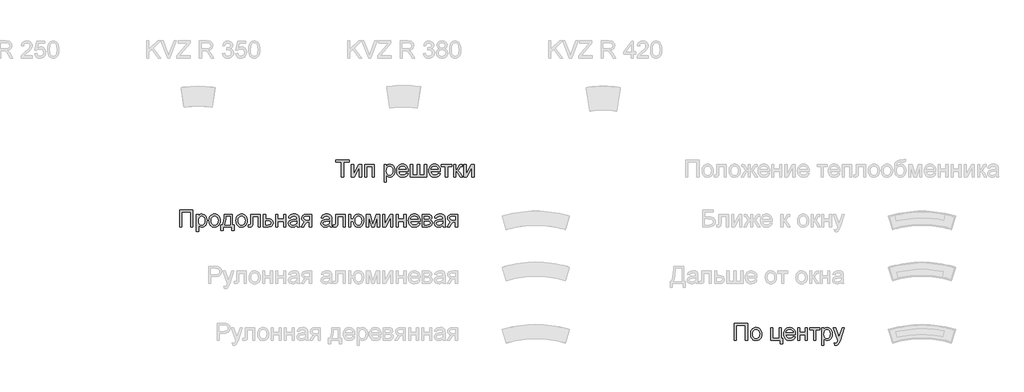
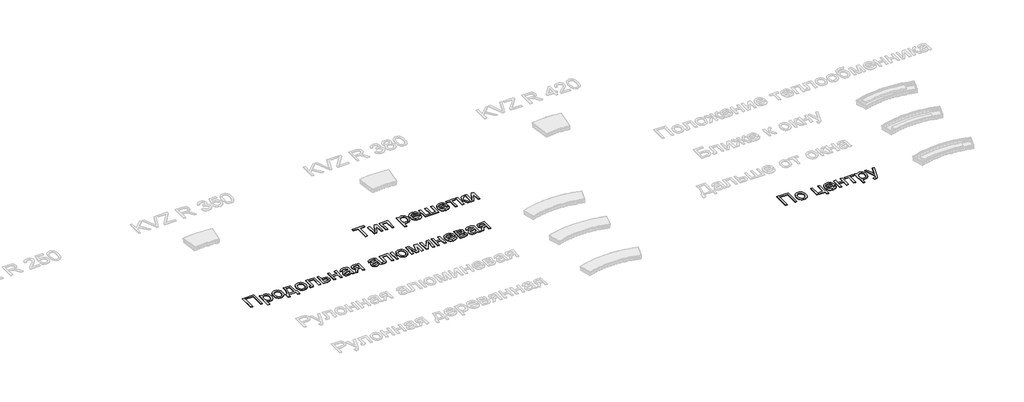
# One storey, part 6 of 9: 3 proxies.
"""IFC4 building model written with IfcOpenShell, lengths in millimetres."""

import ifcopenshell
import ifcopenshell.guid

model = None  # the IFC model being written
_history = None  # IfcOwnerHistory: only IFC2X3 demands one
_inside = {}  # id of a spatial element -> (the spatial element, [elements in it])
_under = {}  # id of a project, library or spatial element -> (it, [spatial elements below it])
_declared = {}  # id of a project -> (the project, [libraries it declares])
_typed = {}  # id of a type object -> (the type object, [elements of that type])
_made_of = {}  # id of a material, layer set ... -> (it, [elements and type objects made of it])


def new_model(schema):
    """Start an empty IFC model of exactly this schema.

    Asked for "IFC4X3", IfcOpenShell would pick the latest addendum, in which some entities
    have other attributes; the version numbers below select the first issue.
    IFC2X3 requires an IfcOwnerHistory on every rooted entity: one is made here for all.
    """
    global model, _history
    if schema == "IFC4X3":
        model = ifcopenshell.file(schema_version=(4, 3, 0, 0))
    else:
        model = ifcopenshell.file(schema=schema)
    _inside.clear()
    _under.clear()
    _declared.clear()
    _typed.clear()
    _made_of.clear()
    _history = None
    if model.schema == "IFC2X3":
        org = make("IfcOrganization", Name="unknown")
        user = make(
            "IfcPersonAndOrganization",
            ThePerson=make("IfcPerson", FamilyName="unknown"),
            TheOrganization=org,
        )
        app = make(
            "IfcApplication",
            ApplicationDeveloper=org,
            Version="unknown",
            ApplicationFullName="unknown",
            ApplicationIdentifier="unknown",
        )
        _history = make(
            "IfcOwnerHistory",
            OwningUser=user,
            OwningApplication=app,
            ChangeAction="ADDED",
            CreationDate=0,
        )
    return model


def make(cls, **values):
    """One entity of the class cls with the attributes given. An attribute that is None is left unset."""
    return model.create_entity(
        cls, **{name: value for name, value in values.items() if value is not None}
    )


def rooted(cls, **values):
    """An entity with a GlobalId (a new one), such as an element, a storey or a relation."""
    return make(cls, GlobalId=ifcopenshell.guid.new(), OwnerHistory=_history, **values)


def si_unit(unit_type, name, prefix=None):
    """IfcSIUnit, for example si_unit("LENGTHUNIT", "METRE", prefix="MILLI")."""
    return make("IfcSIUnit", UnitType=unit_type, Prefix=prefix, Name=name)


def assignment(units):
    """IfcUnitAssignment: the units of a project."""
    return None if units is None else make("IfcUnitAssignment", Units=units)


def point(xyz):
    """IfcCartesianPoint."""
    return None if xyz is None else make("IfcCartesianPoint", Coordinates=xyz)


def direction(xyz):
    """IfcDirection."""
    return None if xyz is None else make("IfcDirection", DirectionRatios=xyz)


def frame(location, z_axis=None, x_axis=None):
    """IfcAxis2Placement3D, a coordinate frame: its origin and axes. An axis left out is left unset."""
    return make(
        "IfcAxis2Placement3D",
        Location=point(location),
        Axis=direction(z_axis),
        RefDirection=direction(x_axis),
    )


def origin():
    """The frame at (0, 0, 0) with its axes left unset."""
    return frame((0.0, 0.0, 0.0))


def origin_with_axes():
    """The frame at (0, 0, 0) with the z axis (0, 0, 1) and the x axis (1, 0, 0) written out."""
    return frame((0.0, 0.0, 0.0), z_axis=(0.0, 0.0, 1.0), x_axis=(1.0, 0.0, 0.0))


def place(relative_to, where):
    """IfcLocalPlacement: puts the frame where relative to a parent placement (None: the world)."""
    return make(
        "IfcLocalPlacement", PlacementRelTo=relative_to, RelativePlacement=where
    )


def context(
    kind, dimensions, precision=None, world=None, true_north=None, identifier=None
):
    """IfcGeometricRepresentationContext, for example the 3D "Model" context."""
    return make(
        "IfcGeometricRepresentationContext",
        ContextIdentifier=identifier,
        ContextType=kind,
        CoordinateSpaceDimension=dimensions,
        Precision=precision,
        WorldCoordinateSystem=world,
        TrueNorth=true_north,
    )


def project(units=None, contexts=None):
    """IfcProject with its units and contexts."""
    return rooted(
        "IfcProject",
        Name="project",
        RepresentationContexts=contexts,
        UnitsInContext=assignment(units),
    )


def spatial(cls, under=None, at=None, **own):
    """A site, building, storey or space (cls), placed at a placement, below another one or the project."""
    s = rooted(cls, ObjectPlacement=at, **own)
    if under is not None:
        _under.setdefault(under.id(), (under, []))[1].append(s)
    return s


def polyline(points):
    """IfcPolyline through the points."""
    return make("IfcPolyline", Points=[point(p) for p in points])


def outline(outer, holes=None, kind="AREA"):
    """IfcArbitraryClosedProfileDef: a profile drawn as a closed curve; with holes, ...WithVoids."""
    if holes is None:
        return make("IfcArbitraryClosedProfileDef", ProfileType=kind, OuterCurve=outer)
    return make(
        "IfcArbitraryProfileDefWithVoids",
        ProfileType=kind,
        OuterCurve=outer,
        InnerCurves=holes,
    )


def extrude(swept, where, along, depth):
    """IfcExtrudedAreaSolid: the profile swept, set in the frame where, extruded along a direction by depth."""
    return make(
        "IfcExtrudedAreaSolid",
        SweptArea=swept,
        Position=where,
        ExtrudedDirection=direction(along),
        Depth=depth,
    )


def shape(context_of_items, identifier, shape_type, items):
    """IfcShapeRepresentation: the items that make up one representation, for example the "Body"."""
    return make(
        "IfcShapeRepresentation",
        ContextOfItems=context_of_items,
        RepresentationIdentifier=identifier,
        RepresentationType=shape_type,
        Items=items,
    )


def made_of(thing, what):
    """Note that an element or type object is made of a material, layer set ...; save() writes the relation."""
    if what is not None:
        _made_of.setdefault(what.id(), (what, []))[1].append(thing)
    return thing


def element(
    cls,
    number,
    at=None,
    inside=None,
    cuts=None,
    type_object=None,
    material=None,
    context=None,
    identifier="Body",
    shape_type=None,
    held_by="IfcProductDefinitionShape",
    body=None,
    shapes=None,
    **own,
):
    """One element of the class cls, such as IfcWall. Its Tag is "e" and its number.

    at: its placement. inside: the storey or other place that contains it. cuts: it is an
    opening in that element (IfcRelVoidsElement). A single representation is given by context,
    identifier, shape_type and body (its items); several are given by shapes. held_by: the class
    of the entity that holds the representations. save() writes the other relations.
    """
    e = rooted(cls, Tag="e%d" % number, ObjectPlacement=at, **own)
    if body is not None:
        shapes = [shape(context, identifier, shape_type, body)]
    if shapes is not None:
        e.Representation = make(held_by, Representations=shapes)
    if inside is not None:
        _inside.setdefault(inside.id(), (inside, []))[1].append(e)
    if cuts is not None:
        rooted(
            "IfcRelVoidsElement", RelatingBuildingElement=cuts, RelatedOpeningElement=e
        )
    if type_object is not None:
        _typed.setdefault(type_object.id(), (type_object, []))[1].append(e)
    return made_of(e, material)


def aggregate(whole, parts):
    """IfcRelAggregates: a whole, such as a stair, and the parts it consists of."""
    return rooted("IfcRelAggregates", RelatingObject=whole, RelatedObjects=parts)


def save(model, path):
    """Write the relations noted so far, then the file.

    IfcRelAggregates (storeys below a building ...), IfcRelContainedInSpatialStructure (elements
    in a storey), IfcRelDefinesByType, IfcRelAssociatesMaterial and IfcRelDeclares: one each for
    every whole, place, type object, material and project.
    """
    for whole, parts in _under.values():
        aggregate(whole, parts)
    for where, things in _inside.values():
        rooted(
            "IfcRelContainedInSpatialStructure",
            RelatedElements=things,
            RelatingStructure=where,
        )
    for kind, things in _typed.values():
        rooted("IfcRelDefinesByType", RelatedObjects=things, RelatingType=kind)
    for what, things in _made_of.values():
        rooted("IfcRelAssociatesMaterial", RelatedObjects=things, RelatingMaterial=what)
    for by, libraries in _declared.values():
        rooted("IfcRelDeclares", RelatingContext=by, RelatedDefinitions=libraries)
    model.write(path)


model = new_model("IFC4")

# Units and contexts
model_context = context("Model", 3, world=origin())
ifc_project = project(units=[si_unit("LENGTHUNIT", "METRE", prefix="MILLI")], contexts=[model_context])

# Site, building, storey
site = spatial("IfcSite", under=ifc_project)
building = spatial("IfcBuilding", under=site)
storey = spatial("IfcBuildingStorey", under=building, Name="Уровень 1", Elevation=0.0)

# Proxies
placement = place(None, origin())
element("IfcBuildingElementProxy", 1, Name="Текст модели 1", ObjectType="Текст модели 1", at=placement, inside=storey, context=model_context, shape_type="SweptSolid", body=[
    extrude(outline(polyline([(8003.9580777, -1846.8781051), (8003.9580777, -1583.180291), (7905.0713974, -1583.180291), (7905.0713974, -1545.5091747), (8140.5158743, -1545.5091747), (8140.5158743, -1583.180291), (8041.629194, -1583.180291), (8041.629194, -1846.8781051), (8003.9580777, -1846.8781051)])), origin_with_axes(), (0.0, 0.0, 1.0), 10.0),
    extrude(outline(polyline([(8178.1869906, -1625.5602968), (8215.8581069, -1625.5602968), (8215.8581069, -1794.3445562), (8308.4172169, -1625.5602968), (8357.1247931, -1625.5602968), (8357.1247931, -1846.8781051), (8319.4536767, -1846.8781051), (8319.4536767, -1679.1239153), (8227.483178, -1846.8781051), (8178.1869906, -1846.8781051), (8178.1869906, -1625.5602968)])), origin_with_axes(), (0.0, 0.0, 1.0), 10.0),
    extrude(outline(polyline([(8413.6314675, -1625.5602968), (8583.1514909, -1625.5602968), (8583.1514909, -1846.8781051), (8545.4803746, -1846.8781051), (8545.4803746, -1663.2314132), (8451.3025838, -1663.2314132), (8451.3025838, -1846.8781051), (8413.6314675, -1846.8781051), (8413.6314675, -1625.5602968)])), origin_with_axes(), (0.0, 0.0, 1.0), 10.0),
    extrude(outline(polyline([(8757.3804038, -1931.6381168), (8757.3804038, -1625.5602968), (8795.0515201, -1625.5602968), (8795.0515201, -1662.4956492), (8807.3387788, -1644.2762934), (8821.0975654, -1631.2624678), (8837.1372204, -1623.4541724), (8856.2670841, -1620.8514073), (8881.7429123, -1624.4934391), (8904.0181671, -1635.4195343), (8922.1547494, -1652.9675055), (8935.2145603, -1676.475165), (8943.1056291, -1704.2318615), (8945.7359853, -1734.5269438), (8942.7653382, -1766.7442095), (8933.8533969, -1795.5585668), (8919.2852699, -1819.5076847), (8899.3460657, -1837.1292323), (8876.1235148, -1847.9725541), (8851.7053474, -1851.5869947), (8834.3873024, -1849.1681706), (8818.9270616, -1841.9116982), (8805.6925068, -1830.9580118), (8795.0515201, -1817.4475455), (8795.0515201, -1931.6381168), (8757.3804038, -1931.6381168)]), holes=[polyline([(8795.0515201, -1737.9850346), (8799.1258132, -1771.7566017), (8811.3486925, -1795.3746258), (8829.3841073, -1809.2805652), (8850.896007, -1813.9158784), (8872.7573945, -1809.1150183), (8891.2526619, -1794.7124382), (8903.8618172, -1770.2298914), (8908.064869, -1735.1891314), (8903.9629848, -1701.6015052), (8891.657332, -1677.6523874), (8873.6495084, -1663.3049896), (8852.4411114, -1658.5225236), (8831.1499409, -1663.6084922), (8812.4523385, -1678.8663979), (8799.4017247, -1703.8179943), (8795.0515201, -1737.9850346)])]), origin_with_axes(), (0.0, 0.0, 1.0), 10.0),
    extrude(outline(polyline([(9143.0678876, -1780.9536516), (9180.0032399, -1785.6625411), (9166.6951087, -1813.4928141), (9145.4591205, -1834.2965409), (9116.7735219, -1847.2643812), (9081.1165596, -1851.5869947), (9057.7422573, -1849.7222928), (9036.9155378, -1844.1281872), (9018.6364012, -1834.8046779), (9002.9048474, -1821.7517649), (8990.2543053, -1805.3327316), (8981.2182038, -1785.9108615), (8975.7965429, -1763.4861546), (8973.9893226, -1738.058611), (8975.814937, -1711.7688439), (8981.2917802, -1688.5968767), (8990.4198522, -1668.5427095), (9003.199153, -1651.6063421), (9018.8893201, -1638.1510581), (9036.7499909, -1628.540141), (9056.7811656, -1622.7735907), (9078.982844, -1620.8514073), (9100.4694518, -1622.7689922), (9119.9005189, -1628.5217469), (9137.2760454, -1638.1096714), (9152.5960312, -1651.5327657), (9165.1017198, -1668.4323449), (9174.0343545, -1688.4497239), (9179.3939353, -1711.5849029), (9181.1804623, -1737.8378818), (9180.9597331, -1747.9914248), (9011.6604389, -1747.9914248), (9018.1811472, -1776.1895798), (9033.3286884, -1796.9197302), (9055.190076, -1809.6668413), (9081.8523236, -1813.9158784), (9101.9018923, -1811.9477097), (9118.7876759, -1806.0432037), (9132.5096743, -1795.8344783), (9143.0678876, -1780.9536516)]), holes=[polyline([(9011.6604389, -1710.3203085), (9143.5093459, -1710.3203085), (9138.4141803, -1690.4178926), (9128.4261841, -1676.1808594), (9106.463629, -1662.9371076), (9078.8356912, -1658.5225236), (9053.4426365, -1662.0449937), (9032.4457716, -1672.612404), (9017.8500534, -1689.0843204), (9011.6604389, -1710.3203085)])]), origin_with_axes(), (0.0, 0.0, 1.0), 10.0),
    extrude(outline(polyline([(9218.8515786, -1625.5602968), (9256.5226949, -1625.5602968), (9256.5226949, -1809.2069888), (9341.2827066, -1809.2069888), (9341.2827066, -1625.5602968), (9378.9538229, -1625.5602968), (9378.9538229, -1809.2069888), (9463.7138345, -1809.2069888), (9463.7138345, -1625.5602968), (9501.3849509, -1625.5602968), (9501.3849509, -1846.8781051), (9218.8515786, -1846.8781051), (9218.8515786, -1625.5602968)])), origin_with_axes(), (0.0, 0.0, 1.0), 10.0),
    extrude(outline(polyline([(9708.1346321, -1780.9536516), (9745.0699845, -1785.6625411), (9731.7618533, -1813.4928141), (9710.5258651, -1834.2965409), (9681.8402665, -1847.2643812), (9646.1833042, -1851.5869947), (9622.8090019, -1849.7222928), (9601.9822824, -1844.1281872), (9583.7031458, -1834.8046779), (9567.971592, -1821.7517649), (9555.3210499, -1805.3327316), (9546.2849484, -1785.9108615), (9540.8632875, -1763.4861546), (9539.0560672, -1738.058611), (9540.8816816, -1711.7688439), (9546.3585248, -1688.5968767), (9555.4865968, -1668.5427095), (9568.2658976, -1651.6063421), (9583.9560647, -1638.1510581), (9601.8167355, -1628.540141), (9621.8479102, -1622.7735907), (9644.0495886, -1620.8514073), (9665.5361964, -1622.7689922), (9684.9672635, -1628.5217469), (9702.34279, -1638.1096714), (9717.6627758, -1651.5327657), (9730.1684644, -1668.4323449), (9739.1010991, -1688.4497239), (9744.4606799, -1711.5849029), (9746.2472068, -1737.8378818), (9746.0264776, -1747.9914248), (9576.7271835, -1747.9914248), (9583.2478918, -1776.1895798), (9598.395433, -1796.9197302), (9620.2568205, -1809.6668413), (9646.9190681, -1813.9158784), (9666.9686369, -1811.9477097), (9683.8544205, -1806.0432037), (9697.5764189, -1795.8344783), (9708.1346321, -1780.9536516)]), holes=[polyline([(9576.7271835, -1710.3203085), (9708.5760905, -1710.3203085), (9703.4809249, -1690.4178926), (9693.4929287, -1676.1808594), (9671.5303736, -1662.9371076), (9643.9024358, -1658.5225236), (9618.5093811, -1662.0449937), (9597.5125162, -1672.612404), (9582.916798, -1689.0843204), (9576.7271835, -1710.3203085)])]), origin_with_axes(), (0.0, 0.0, 1.0), 10.0),
    extrude(outline(polyline([(9765.082765, -1625.5602968), (9944.0205674, -1625.5602968), (9944.0205674, -1663.2314132), (9873.3872244, -1663.2314132), (9873.3872244, -1846.8781051), (9835.7161081, -1846.8781051), (9835.7161081, -1663.2314132), (9765.082765, -1663.2314132), (9765.082765, -1625.5602968)])), origin_with_axes(), (0.0, 0.0, 1.0), 10.0),
    extrude(outline(polyline([(9976.9827942, -1625.5602968), (10014.6539105, -1625.5602968), (10014.6539105, -1719.7380876), (10029.9761956, -1718.0458304), (10039.8906154, -1712.9690589), (10048.664601, -1699.7253071), (10060.5655835, -1673.532109), (10077.7456727, -1639.5030245), (10092.9024109, -1628.4297764), (10120.4567723, -1625.5602968), (10127.6672594, -1625.5602968), (10127.6672594, -1663.4521423), (10117.5137164, -1663.2314132), (10099.1196166, -1667.2045387), (10086.1701704, -1691.9997852), (10070.976644, -1718.8183826), (10049.6762765, -1731.9517699), (10061.6140472, -1737.2538691), (10073.4414534, -1746.6118674), (10096.7651718, -1777.4955609), (10137.0850385, -1846.8781051), (10094.2635743, -1846.8781051), (10054.753048, -1778.9670888), (10034.8874203, -1750.235505), (10025.5983999, -1745.0207777), (10014.6539105, -1743.2825353), (10014.6539105, -1846.8781051), (9976.9827942, -1846.8781051), (9976.9827942, -1625.5602968)])), origin_with_axes(), (0.0, 0.0, 1.0), 10.0),
    extrude(outline(polyline([(10160.6294862, -1625.5602968), (10198.3006025, -1625.5602968), (10198.3006025, -1794.3445562), (10290.8597125, -1625.5602968), (10339.5672887, -1625.5602968), (10339.5672887, -1846.8781051), (10301.8961724, -1846.8781051), (10301.8961724, -1679.1239153), (10209.9256736, -1846.8781051), (10160.6294862, -1846.8781051), (10160.6294862, -1625.5602968)])), origin_with_axes(), (0.0, 0.0, 1.0), 10.0),
])
element("IfcBuildingElementProxy", 2, Name="Текст модели 1", ObjectType="Текст модели 1", at=placement, inside=storey, context=model_context, shape_type="SweptSolid", body=[
    extrude(outline(polyline([(5151.9470121, -2424.9415006), (5387.391489, -2424.9415006), (5387.391489, -2726.3104311), (5349.7203727, -2726.3104311), (5349.7203727, -2462.6126169), (5189.6181284, -2462.6126169), (5189.6181284, -2726.3104311), (5151.9470121, -2726.3104311), (5151.9470121, -2424.9415006)])), origin_with_axes(), (0.0, 0.0, 1.0), 10.0),
    extrude(outline(polyline([(5448.607053, -2811.0704428), (5448.607053, -2504.9926228), (5486.2781693, -2504.9926228), (5486.2781693, -2541.9279751), (5498.565428, -2523.7086193), (5512.3242146, -2510.6947937), (5528.3638696, -2502.8864984), (5547.4937333, -2500.2837332), (5572.9695615, -2503.925765), (5595.2448163, -2514.8518603), (5613.3813987, -2532.3998314), (5626.4412095, -2555.9074909), (5634.3322783, -2583.6641875), (5636.9626346, -2613.9592698), (5633.9919875, -2646.1765355), (5625.0800461, -2674.9908928), (5610.5119191, -2698.9400106), (5590.572715, -2716.5615582), (5567.350164, -2727.40488), (5542.9319966, -2731.0193206), (5525.6139517, -2728.6004965), (5510.1537108, -2721.3440241), (5496.919156, -2710.3903377), (5486.2781693, -2696.8798715), (5486.2781693, -2811.0704428), (5448.607053, -2811.0704428)]), holes=[polyline([(5486.2781693, -2617.4173605), (5490.3524624, -2651.1889277), (5502.5753417, -2674.8069518), (5520.6107565, -2688.7128912), (5542.1226562, -2693.3482043), (5563.9840438, -2688.5473443), (5582.4793111, -2674.1447642), (5595.0884665, -2649.6622174), (5599.2915183, -2614.6214573), (5595.189634, -2581.0338312), (5582.8839813, -2557.0847133), (5564.8761576, -2542.7373155), (5543.6677606, -2537.9548496), (5522.3765901, -2543.0408181), (5503.6789877, -2558.2987239), (5490.6283739, -2583.2503202), (5486.2781693, -2617.4173605)])]), origin_with_axes(), (0.0, 0.0, 1.0), 10.0),
    extrude(outline(polyline([(5669.9248613, -2615.6515269), (5671.9620079, -2586.988921), (5678.0734475, -2562.2902435), (5688.2591803, -2541.5554946), (5702.5192061, -2524.7846741), (5716.875801, -2514.0655125), (5732.7223179, -2506.4089685), (5750.0587569, -2501.815042), (5768.885118, -2500.2837332), (5789.6681515, -2502.1484351), (5808.4600237, -2507.7425407), (5825.2607345, -2517.06605), (5840.0702841, -2530.1189631), (5852.1575069, -2546.4598214), (5860.7912375, -2565.6471667), (5865.9714758, -2587.680999), (5867.6982219, -2612.5613182), (5864.6448014, -2650.6187106), (5855.4845397, -2679.5894177), (5840.4841513, -2701.2852584), (5819.9103508, -2717.5180514), (5795.4737892, -2727.6440033), (5768.885118, -2731.0193206), (5747.7985819, -2729.1615165), (5728.8319658, -2723.5881043), (5711.9852697, -2714.2990839), (5697.2584936, -2701.2944554), (5685.3000295, -2684.7949479), (5676.7582694, -2665.0212907), (5671.6332133, -2641.9734837), (5669.9248613, -2615.6515269)]), holes=[polyline([(5707.5959776, -2615.5779505), (5711.9553793, -2649.6714144), (5725.0335842, -2673.9608232), (5744.7152709, -2688.501359), (5768.885118, -2693.3482043), (5792.9446005, -2688.4737679), (5812.5894991, -2673.8504586), (5825.667704, -2649.2391531), (5830.0271056, -2614.4007281), (5825.6401128, -2581.3005456), (5812.4791345, -2557.3422307), (5792.8066448, -2542.8016948), (5768.885118, -2537.9548496), (5744.7152709, -2542.7833007), (5725.0335842, -2557.2686543), (5711.9553793, -2581.5028807), (5707.5959776, -2615.5779505)])]), origin_with_axes(), (0.0, 0.0, 1.0), 10.0),
    extrude(outline(polyline([(5943.0404545, -2504.9926228), (6084.3071407, -2504.9926228), (6084.3071407, -2688.6393148), (6112.5604779, -2688.6393148), (6112.5604779, -2787.5259951), (6074.8893616, -2787.5259951), (6074.8893616, -2726.3104311), (5919.4960069, -2726.3104311), (5919.4960069, -2787.5259951), (5881.8248906, -2787.5259951), (5881.8248906, -2688.6393148), (5905.3693382, -2688.6393148), (5922.4850481, -2657.709636), (5934.4688041, -2616.7919611), (5941.3206062, -2565.88629), (5943.0404545, -2504.9926228)]), holes=[polyline([(5976.0026813, -2542.6637391), (5972.9124726, -2588.7869442), (5967.1735134, -2628.4906086), (5958.7858039, -2661.7747321), (5947.7493441, -2688.6393148), (6046.6360244, -2688.6393148), (6046.6360244, -2542.6637391), (5976.0026813, -2542.6637391)])]), origin_with_axes(), (0.0, 0.0, 1.0), 10.0),
    extrude(outline(polyline([(6145.5227047, -2615.6515269), (6147.5598512, -2586.988921), (6153.6712909, -2562.2902435), (6163.8570236, -2541.5554946), (6178.1170495, -2524.7846741), (6192.4736443, -2514.0655125), (6208.3201613, -2506.4089685), (6225.6566003, -2501.815042), (6244.4829614, -2500.2837332), (6265.2659949, -2502.1484351), (6284.057867, -2507.7425407), (6300.8585779, -2517.06605), (6315.6681275, -2530.1189631), (6327.7553503, -2546.4598214), (6336.3890808, -2565.6471667), (6341.5693192, -2587.680999), (6343.2960653, -2612.5613182), (6340.2426447, -2650.6187106), (6331.0823831, -2679.5894177), (6316.0819947, -2701.2852584), (6295.5081941, -2717.5180514), (6271.0716326, -2727.6440033), (6244.4829614, -2731.0193206), (6223.3964253, -2729.1615165), (6204.4298092, -2723.5881043), (6187.5831131, -2714.2990839), (6172.8563369, -2701.2944554), (6160.8978728, -2684.7949479), (6152.3561128, -2665.0212907), (6147.2310567, -2641.9734837), (6145.5227047, -2615.6515269)]), holes=[polyline([(6183.193821, -2615.5779505), (6187.5532226, -2649.6714144), (6200.6314276, -2673.9608232), (6220.3131143, -2688.501359), (6244.4829614, -2693.3482043), (6268.5424439, -2688.4737679), (6288.1873424, -2673.8504586), (6301.2655474, -2649.2391531), (6305.624949, -2614.4007281), (6301.2379562, -2581.3005456), (6288.0769778, -2557.3422307), (6268.4044881, -2542.8016948), (6244.4829614, -2537.9548496), (6220.3131143, -2542.7833007), (6200.6314276, -2557.2686543), (6187.5532226, -2581.5028807), (6183.193821, -2615.5779505)])]), origin_with_axes(), (0.0, 0.0, 1.0), 10.0),
    extrude(outline(polyline([(6404.5116293, -2504.9926228), (6574.0316527, -2504.9926228), (6574.0316527, -2726.0897019), (6536.3605364, -2726.0897019), (6536.3605364, -2542.6637391), (6442.1827456, -2542.6637391), (6442.1827456, -2648.2458717), (6439.6443598, -2696.9534479), (6434.8894851, -2707.9807107), (6425.7016322, -2717.5180514), (6411.7589046, -2724.1123362), (6392.7394055, -2726.3104311), (6362.1316235, -2724.3974447), (6362.1316235, -2688.6393148), (6378.9806188, -2688.6393148), (6396.0135552, -2686.3216582), (6402.8193721, -2678.9640183), (6404.5116293, -2646.1121561), (6404.5116293, -2504.9926228)])), origin_with_axes(), (0.0, 0.0, 1.0), 10.0),
    extrude(outline(polyline([(6630.5383271, -2504.9926228), (6668.2094434, -2504.9926228), (6668.2094434, -2585.0437449), (6711.6195189, -2585.0437449), (6749.253847, -2589.7618315), (6764.4013881, -2595.6594398), (6777.102514, -2603.9160913), (6787.1456925, -2614.2466776), (6794.3193914, -2626.36609), (6800.0583505, -2655.9713936), (6795.174717, -2682.9279468), (6780.5238166, -2705.6722512), (6769.2919194, -2714.7014549), (6755.1307619, -2721.1508861), (6718.0206656, -2726.3104311), (6630.5383271, -2726.3104311), (6630.5383271, -2504.9926228)]), holes=[polyline([(6668.2094434, -2688.6393148), (6703.3789622, -2688.6393148), (6730.6666092, -2686.6619491), (6748.8123886, -2680.7298519), (6758.9935228, -2670.6039), (6762.3872342, -2656.04497), (6759.8764396, -2643.7393173), (6752.3440557, -2632.8684043), (6736.2032332, -2625.253247), (6707.8671225, -2622.7148612), (6668.2094434, -2622.7148612), (6668.2094434, -2688.6393148)])]), origin_with_axes(), (0.0, 0.0, 1.0), 10.0),
    extrude(outline(polyline([(6847.1472459, -2504.9926228), (6884.8183622, -2504.9926228), (6884.8183622, -2589.7526345), (6983.7050425, -2589.7526345), (6983.7050425, -2504.9926228), (7021.3761588, -2504.9926228), (7021.3761588, -2726.3104311), (6983.7050425, -2726.3104311), (6983.7050425, -2627.4237508), (6884.8183622, -2627.4237508), (6884.8183622, -2726.3104311), (6847.1472459, -2726.3104311), (6847.1472459, -2504.9926228)])), origin_with_axes(), (0.0, 0.0, 1.0), 10.0),
    extrude(outline(polyline([(7219.1495194, -2698.0570939), (7201.1508928, -2713.4897435), (7182.6188373, -2723.5881043), (7163.1302886, -2729.1615165), (7142.2621824, -2731.0193206), (7110.7806807, -2726.5495544), (7087.5581297, -2713.1402557), (7073.2383231, -2692.7779872), (7068.4650542, -2667.4493119), (7070.267676, -2651.8327212), (7075.6755413, -2637.6508702), (7084.0172655, -2625.5107644), (7094.6214641, -2616.0194089), (7120.9986031, -2603.6585739), (7153.5929479, -2597.9931912), (7192.1101928, -2592.0335028), (7218.9287902, -2585.0437449), (7219.1495194, -2576.6560354), (7216.5559514, -2559.8438283), (7208.7752472, -2548.8441566), (7191.3744288, -2540.6771763), (7167.1310053, -2537.9548496), (7144.6902036, -2539.7666684), (7129.0184306, -2545.2021249), (7118.3314586, -2555.2545004), (7110.84506, -2570.9170763), (7073.1739437, -2566.2081868), (7079.7130462, -2545.6067951), (7089.4711161, -2529.4199873), (7103.3586614, -2517.0407581), (7122.2861901, -2507.8621023), (7145.4351646, -2502.1783255), (7171.9870476, -2500.2837332), (7197.4536788, -2501.9575963), (7217.6412032, -2506.9791856), (7232.8623208, -2514.5299635), (7243.4297311, -2523.7913927), (7250.4378831, -2535.2417198), (7254.9812257, -2549.3591914), (7256.8206357, -2582.3214182), (7256.8206357, -2629.1895844), (7258.7336221, -2694.6357913), (7266.2384148, -2726.3104311), (7228.5672985, -2726.3104311), (7219.1495194, -2698.0570939)]), holes=[polyline([(7219.1495194, -2622.7148612), (7158.3754138, -2634.2663559), (7125.96501, -2640.373197), (7111.2865184, -2650.3060109), (7106.1361705, -2664.8005615), (7108.9412707, -2676.0025682), (7117.3565714, -2685.181224), (7131.1981314, -2691.3064592), (7150.2820099, -2693.3482043), (7170.5155197, -2691.0949271), (7188.3945846, -2684.3350954), (7202.8891352, -2674.3746904), (7212.9691019, -2662.5196931), (7217.4388681, -2650.3060109), (7218.9287902, -2633.3834391), (7219.1495194, -2622.7148612)])]), origin_with_axes(), (0.0, 0.0, 1.0), 10.0),
    extrude(outline(polyline([(7478.138444, -2504.9926228), (7478.138444, -2726.3104311), (7440.4673277, -2726.3104311), (7440.4673277, -2641.5504194), (7419.9395124, -2641.5504194), (7391.9804808, -2646.3328853), (7380.8152622, -2656.7623399), (7365.7137063, -2678.4857717), (7335.6945355, -2726.3104311), (7292.1373073, -2726.3104311), (7329.9555764, -2665.8306311), (7346.6574189, -2644.1255934), (7362.0348863, -2634.4870851), (7336.2831467, -2626.5960163), (7318.1833525, -2611.604825), (7307.4779865, -2591.6656208), (7303.9095311, -2568.9305135), (7308.7839675, -2543.1419857), (7323.4072769, -2522.724535), (7347.2644242, -2509.4256008), (7379.8403749, -2504.9926228), (7478.138444, -2504.9926228)]), holes=[polyline([(7440.4673277, -2542.6637391), (7390.8032584, -2542.6637391), (7365.1526863, -2544.8434399), (7350.5937563, -2551.3825424), (7343.8339246, -2560.8463067), (7341.5806474, -2571.7999931), (7344.9007824, -2586.156588), (7354.8611874, -2596.116993), (7373.2644842, -2601.9387256), (7401.9132946, -2603.8793031), (7440.4673277, -2603.8793031), (7440.4673277, -2542.6637391)])]), origin_with_axes(), (0.0, 0.0, 1.0), 10.0),
    extrude(outline(polyline([(7793.6340431, -2698.0570939), (7775.6354165, -2713.4897435), (7757.103361, -2723.5881043), (7737.6148123, -2729.1615165), (7716.7467061, -2731.0193206), (7685.2652044, -2726.5495544), (7662.0426534, -2713.1402557), (7647.7228467, -2692.7779872), (7642.9495779, -2667.4493119), (7644.7521996, -2651.8327212), (7650.160065, -2637.6508702), (7658.5017892, -2625.5107644), (7669.1059877, -2616.0194089), (7695.4831268, -2603.6585739), (7728.0774715, -2597.9931912), (7766.5947164, -2592.0335028), (7793.4133139, -2585.0437449), (7793.6340431, -2576.6560354), (7791.040475, -2559.8438283), (7783.2597708, -2548.8441566), (7765.8589525, -2540.6771763), (7741.615529, -2537.9548496), (7719.1747273, -2539.7666684), (7703.5029543, -2545.2021249), (7692.8159823, -2555.2545004), (7685.3295837, -2570.9170763), (7647.6584674, -2566.2081868), (7654.1975699, -2545.6067951), (7663.9556398, -2529.4199873), (7677.8431851, -2517.0407581), (7696.7707138, -2507.8621023), (7719.9196883, -2502.1783255), (7746.4715713, -2500.2837332), (7771.9382024, -2501.9575963), (7792.1257269, -2506.9791856), (7807.3468445, -2514.5299635), (7817.9142548, -2523.7913927), (7824.9224068, -2535.2417198), (7829.4657494, -2549.3591914), (7831.3051594, -2582.3214182), (7831.3051594, -2629.1895844), (7833.2181458, -2694.6357913), (7840.7229385, -2726.3104311), (7803.0518222, -2726.3104311), (7793.6340431, -2698.0570939)]), holes=[polyline([(7793.6340431, -2622.7148612), (7732.8599375, -2634.2663559), (7700.4495337, -2640.373197), (7685.7710421, -2650.3060109), (7680.6206942, -2664.8005615), (7683.4257944, -2676.0025682), (7691.841095, -2685.181224), (7705.6826551, -2691.3064592), (7724.7665336, -2693.3482043), (7745.0000433, -2691.0949271), (7762.8791083, -2684.3350954), (7777.3736589, -2674.3746904), (7787.4536256, -2662.5196931), (7791.9233918, -2650.3060109), (7793.4133139, -2633.3834391), (7793.6340431, -2622.7148612)])]), origin_with_axes(), (0.0, 0.0, 1.0), 10.0),
    extrude(outline(polyline([(7901.9385025, -2504.9926228), (8071.4585258, -2504.9926228), (8071.4585258, -2726.0897019), (8033.7874095, -2726.0897019), (8033.7874095, -2542.6637391), (7939.6096188, -2542.6637391), (7939.6096188, -2648.2458717), (7937.071233, -2696.9534479), (7932.3163582, -2707.9807107), (7923.1285054, -2717.5180514), (7909.1857778, -2724.1123362), (7890.1662786, -2726.3104311), (7859.5584966, -2724.3974447), (7859.5584966, -2688.6393148), (7876.407492, -2688.6393148), (7893.4404284, -2686.3216582), (7900.2462453, -2678.9640183), (7901.9385025, -2646.1121561), (7901.9385025, -2504.9926228)])), origin_with_axes(), (0.0, 0.0, 1.0), 10.0),
    extrude(outline(polyline([(8127.9652003, -2504.9926228), (8165.6363166, -2504.9926228), (8165.6363166, -2589.7526345), (8208.0163225, -2589.7526345), (8217.7927865, -2551.3457542), (8226.3161525, -2536.005075), (8237.2629411, -2523.2395697), (8250.3250512, -2513.1963913), (8265.1943816, -2506.0226924), (8300.3547032, -2500.2837332), (8329.9048245, -2503.6590506), (8352.483582, -2513.7850025), (8369.9027944, -2529.8338545), (8383.9742807, -2550.9778722), (8393.2724982, -2578.789751), (8396.371904, -2614.8421865), (8394.769318, -2641.6975722), (8389.9615602, -2665.0948671), (8381.9486305, -2685.0340712), (8370.7305289, -2701.5151846), (8356.7671079, -2714.4232441), (8340.5182201, -2723.6432866), (8321.9838653, -2729.1753121), (8301.1640436, -2731.0193206), (8281.7605676, -2729.2902752), (8264.3850412, -2724.1031391), (8249.0374642, -2715.4579122), (8235.7178367, -2703.3545946), (8224.7572525, -2688.2346446), (8216.4868054, -2670.5395206), (8208.0163225, -2627.4237508), (8165.6363166, -2627.4237508), (8165.6363166, -2726.3104311), (8127.9652003, -2726.3104311), (8127.9652003, -2504.9926228)]), holes=[polyline([(8302.7827244, -2537.9548496), (8278.7692272, -2542.829286), (8260.7338124, -2557.4525953), (8249.4490322, -2580.8682843), (8245.6874388, -2612.1198598), (8249.4766233, -2648.5309803), (8260.844177, -2673.740094), (8278.557695, -2688.4461767), (8301.3847728, -2693.3482043), (8324.27623, -2688.8140587), (8342.6243445, -2675.211622), (8354.6816769, -2651.5108244), (8358.7007877, -2616.6815965), (8355.2243028, -2582.2386447), (8344.7948483, -2557.6365363), (8327.3388476, -2542.8752712), (8302.7827244, -2537.9548496)])]), origin_with_axes(), (0.0, 0.0, 1.0), 10.0),
    extrude(outline(polyline([(8443.4607994, -2504.9926228), (8508.2816069, -2504.9926228), (8558.2399819, -2682.1645917), (8612.097906, -2504.9926228), (8674.1963867, -2504.9926228), (8674.1963867, -2726.3104311), (8636.5252704, -2726.3104311), (8636.5252704, -2548.1083926), (8582.3730407, -2726.3104311), (8532.9297006, -2726.3104311), (8481.1319157, -2539.5735303), (8481.1319157, -2726.3104311), (8443.4607994, -2726.3104311), (8443.4607994, -2504.9926228)])), origin_with_axes(), (0.0, 0.0, 1.0), 10.0),
    extrude(outline(polyline([(8730.7030612, -2504.9926228), (8768.3741775, -2504.9926228), (8768.3741775, -2673.7768822), (8860.9332875, -2504.9926228), (8909.6408637, -2504.9926228), (8909.6408637, -2726.3104311), (8871.9697473, -2726.3104311), (8871.9697473, -2558.5562413), (8779.9992486, -2726.3104311), (8730.7030612, -2726.3104311), (8730.7030612, -2504.9926228)])), origin_with_axes(), (0.0, 0.0, 1.0), 10.0),
    extrude(outline(polyline([(8966.1475381, -2504.9926228), (9003.8186544, -2504.9926228), (9003.8186544, -2589.7526345), (9102.7053347, -2589.7526345), (9102.7053347, -2504.9926228), (9140.376451, -2504.9926228), (9140.376451, -2726.3104311), (9102.7053347, -2726.3104311), (9102.7053347, -2627.4237508), (9003.8186544, -2627.4237508), (9003.8186544, -2726.3104311), (8966.1475381, -2726.3104311), (8966.1475381, -2504.9926228)])), origin_with_axes(), (0.0, 0.0, 1.0), 10.0),
    extrude(outline(polyline([(9351.8350219, -2660.3859775), (9388.7703742, -2665.0948671), (9375.462243, -2692.92514), (9354.2262548, -2713.7288668), (9325.5406563, -2726.6967072), (9289.8836939, -2731.0193206), (9266.5093916, -2729.1546188), (9245.6826721, -2723.5605132), (9227.4035355, -2714.2370039), (9211.6719817, -2701.1840908), (9199.0214396, -2684.7650575), (9189.9853381, -2665.3431874), (9184.5636772, -2642.9184806), (9182.7564569, -2617.4909369), (9184.5820713, -2591.2011698), (9190.0589145, -2568.0292027), (9199.1869865, -2547.9750354), (9211.9662873, -2531.038668), (9227.6564544, -2517.5833841), (9245.5171253, -2507.9724669), (9265.5482999, -2502.2059167), (9287.7499783, -2500.2837332), (9309.2365861, -2502.2013181), (9328.6676532, -2507.9540728), (9346.0431797, -2517.5419973), (9361.3631655, -2530.9650916), (9373.8688541, -2547.8646708), (9382.8014888, -2567.8820499), (9388.1610696, -2591.0172288), (9389.9475966, -2617.2702077), (9389.7268674, -2627.4237508), (9220.4275732, -2627.4237508), (9226.9482815, -2655.6219057), (9242.0958227, -2676.3520561), (9263.9572103, -2689.0991673), (9290.6194579, -2693.3482043), (9310.6690266, -2691.3800356), (9327.5548102, -2685.4755296), (9341.2768086, -2675.2668043), (9351.8350219, -2660.3859775)]), holes=[polyline([(9220.4275732, -2589.7526345), (9352.2764803, -2589.7526345), (9347.1813146, -2569.8502185), (9337.1933184, -2555.6131853), (9315.2307633, -2542.3694335), (9287.6028255, -2537.9548496), (9262.2097708, -2541.4773197), (9241.2129059, -2552.04473), (9226.6171877, -2568.5166463), (9220.4275732, -2589.7526345)])]), origin_with_axes(), (0.0, 0.0, 1.0), 10.0),
    extrude(outline(polyline([(9427.6187129, -2504.9926228), (9510.612891, -2504.9926228), (9537.2935327, -2506.2526186), (9556.1198938, -2510.0326061), (9569.9706509, -2517.1695168), (9581.7244806, -2528.5002823), (9589.7535052, -2543.2615473), (9592.4298467, -2560.6899569), (9590.8111659, -2574.733852), (9585.9551236, -2586.8463667), (9577.8433256, -2597.0826832), (9566.4573778, -2605.4979839), (9580.4001055, -2613.3246733), (9591.7676591, -2625.9154346), (9599.3276341, -2642.2769863), (9601.8476258, -2661.4160471), (9595.4648732, -2690.1292369), (9580.2897409, -2710.3443525), (9556.2670466, -2722.3189114), (9523.341608, -2726.3104311), (9427.6187129, -2726.3104311), (9427.6187129, -2504.9926228)]), holes=[polyline([(9465.2898292, -2589.7526345), (9502.5194871, -2589.7526345), (9533.2376337, -2587.8396481), (9548.1736427, -2580.1877026), (9553.1124585, -2573.8601323), (9554.7587304, -2566.3553396), (9551.8708567, -2555.1165446), (9543.2072357, -2547.8876634), (9527.5538569, -2543.9697202), (9503.6967095, -2542.6637391), (9465.2898292, -2542.6637391), (9465.2898292, -2589.7526345)]), polyline([(9465.2898292, -2688.6393148), (9511.4958078, -2688.6393148), (9536.6773303, -2686.9378605), (9552.477862, -2681.8334979), (9560.957542, -2672.5536745), (9564.1765095, -2658.3258384), (9562.5670257, -2648.8988622), (9557.7385746, -2640.189256), (9550.3257524, -2633.3742421), (9540.9631556, -2629.6310427), (9507.8169878, -2627.4237508), (9465.2898292, -2627.4237508), (9465.2898292, -2688.6393148)])]), origin_with_axes(), (0.0, 0.0, 1.0), 10.0),
    extrude(outline(polyline([(9790.2032073, -2698.0570939), (9772.2045807, -2713.4897435), (9753.6725252, -2723.5881043), (9734.1839765, -2729.1615165), (9713.3158703, -2731.0193206), (9681.8343686, -2726.5495544), (9658.6118176, -2713.1402557), (9644.292011, -2692.7779872), (9639.5187421, -2667.4493119), (9641.3213639, -2651.8327212), (9646.7292292, -2637.6508702), (9655.0709534, -2625.5107644), (9665.6751519, -2616.0194089), (9692.052291, -2603.6585739), (9724.6466358, -2597.9931912), (9763.1638807, -2592.0335028), (9789.9824781, -2585.0437449), (9790.2032073, -2576.6560354), (9787.6096392, -2559.8438283), (9779.828935, -2548.8441566), (9762.4281167, -2540.6771763), (9738.1846932, -2537.9548496), (9715.7438915, -2539.7666684), (9700.0721185, -2545.2021249), (9689.3851465, -2555.2545004), (9681.8987479, -2570.9170763), (9644.2276316, -2566.2081868), (9650.7667341, -2545.6067951), (9660.524804, -2529.4199873), (9674.4123493, -2517.0407581), (9693.339878, -2507.8621023), (9716.4888525, -2502.1783255), (9743.0407355, -2500.2837332), (9768.5073666, -2501.9575963), (9788.6948911, -2506.9791856), (9803.9160087, -2514.5299635), (9814.483419, -2523.7913927), (9821.491571, -2535.2417198), (9826.0349136, -2549.3591914), (9827.8743236, -2582.3214182), (9827.8743236, -2629.1895844), (9829.78731, -2694.6357913), (9837.2921027, -2726.3104311), (9799.6209864, -2726.3104311), (9790.2032073, -2698.0570939)]), holes=[polyline([(9790.2032073, -2622.7148612), (9729.4291017, -2634.2663559), (9697.0186979, -2640.373197), (9682.3402063, -2650.3060109), (9677.1898584, -2664.8005615), (9679.9949586, -2676.0025682), (9688.4102592, -2685.181224), (9702.2518193, -2691.3064592), (9721.3356978, -2693.3482043), (9741.5692075, -2691.0949271), (9759.4482725, -2684.3350954), (9773.9428231, -2674.3746904), (9784.0227898, -2662.5196931), (9788.492556, -2650.3060109), (9789.9824781, -2633.3834391), (9790.2032073, -2622.7148612)])]), origin_with_axes(), (0.0, 0.0, 1.0), 10.0),
    extrude(outline(polyline([(10049.1921319, -2504.9926228), (10049.1921319, -2726.3104311), (10011.5210156, -2726.3104311), (10011.5210156, -2641.5504194), (9990.9932003, -2641.5504194), (9963.0341686, -2646.3328853), (9951.8689501, -2656.7623399), (9936.7673942, -2678.4857717), (9906.7482234, -2726.3104311), (9863.1909952, -2726.3104311), (9901.0092643, -2665.8306311), (9917.7111068, -2644.1255934), (9933.0885742, -2634.4870851), (9907.3368346, -2626.5960163), (9889.2370404, -2611.604825), (9878.5316744, -2591.6656208), (9874.963219, -2568.9305135), (9879.8376554, -2543.1419857), (9894.4609647, -2522.724535), (9918.3181121, -2509.4256008), (9950.8940628, -2504.9926228), (10049.1921319, -2504.9926228)]), holes=[polyline([(10011.5210156, -2542.6637391), (9961.8569463, -2542.6637391), (9936.2063741, -2544.8434399), (9921.6474442, -2551.3825424), (9914.8876125, -2560.8463067), (9912.6343353, -2571.7999931), (9915.9544703, -2586.156588), (9925.9148753, -2596.116993), (9944.3181721, -2601.9387256), (9972.9669825, -2603.8793031), (10011.5210156, -2603.8793031), (10011.5210156, -2542.6637391)])]), origin_with_axes(), (0.0, 0.0, 1.0), 10.0),
])
element("IfcBuildingElementProxy", 3, Name="Текст модели 1", ObjectType="Текст модели 1", at=placement, inside=storey, context=model_context, shape_type="SweptSolid", body=[
    extrude(outline(polyline([(14920.1350337, -4424.9415006), (15155.5795107, -4424.9415006), (15155.5795107, -4726.3104311), (15117.9083943, -4726.3104311), (15117.9083943, -4462.6126169), (14957.80615, -4462.6126169), (14957.80615, -4726.3104311), (14920.1350337, -4726.3104311), (14920.1350337, -4424.9415006)])), origin_with_axes(), (0.0, 0.0, 1.0), 10.0),
    extrude(outline(polyline([(15207.3772956, -4615.6515269), (15209.4144421, -4586.988921), (15215.5258818, -4562.2902435), (15225.7116145, -4541.5554946), (15239.9716403, -4524.7846741), (15254.3282352, -4514.0655125), (15270.1747521, -4506.4089685), (15287.5111912, -4501.815042), (15306.3375523, -4500.2837332), (15327.1205857, -4502.1484351), (15345.9124579, -4507.7425407), (15362.7131688, -4517.06605), (15377.5227183, -4530.1189631), (15389.6099411, -4546.4598214), (15398.2436717, -4565.6471667), (15403.4239101, -4587.680999), (15405.1506562, -4612.5613182), (15402.0972356, -4650.6187106), (15392.9369739, -4679.5894177), (15377.9365856, -4701.2852584), (15357.362785, -4717.5180514), (15332.9262235, -4727.6440033), (15306.3375523, -4731.0193206), (15285.2510162, -4729.1615165), (15266.2844001, -4723.5881043), (15249.4377039, -4714.2990839), (15234.7109278, -4701.2944554), (15222.7524637, -4684.7949479), (15214.2107036, -4665.0212907), (15209.0856476, -4641.9734837), (15207.3772956, -4615.6515269)]), holes=[polyline([(15245.0484119, -4615.5779505), (15249.4078135, -4649.6714144), (15262.4860185, -4673.9608232), (15282.1677052, -4688.501359), (15306.3375523, -4693.3482043), (15330.3970348, -4688.4737679), (15350.0419333, -4673.8504586), (15363.1201382, -4649.2391531), (15367.4795399, -4614.4007281), (15363.0925471, -4581.3005456), (15349.9315687, -4557.3422307), (15330.259079, -4542.8016948), (15306.3375523, -4537.9548496), (15282.1677052, -4542.7833007), (15262.4860185, -4557.2686543), (15249.4078135, -4581.5028807), (15245.0484119, -4615.5779505)])]), origin_with_axes(), (0.0, 0.0, 1.0), 10.0),
    extrude(outline(polyline([(15565.2529005, -4504.9926228), (15602.9240168, -4504.9926228), (15602.9240168, -4688.6393148), (15711.2284762, -4688.6393148), (15711.2284762, -4504.9926228), (15748.8995925, -4504.9926228), (15748.8995925, -4688.6393148), (15772.4440402, -4688.6393148), (15772.4440402, -4787.5259951), (15734.7729239, -4787.5259951), (15734.7729239, -4726.3104311), (15565.2529005, -4726.3104311), (15565.2529005, -4504.9926228)])), origin_with_axes(), (0.0, 0.0, 1.0), 10.0),
    extrude(outline(polyline([(15960.3581633, -4660.3859775), (15997.2935156, -4665.0948671), (15983.9853844, -4692.92514), (15962.7493963, -4713.7288668), (15934.0637977, -4726.6967072), (15898.4068353, -4731.0193206), (15875.032533, -4729.1546188), (15854.2058136, -4723.5605132), (15835.926677, -4714.2370039), (15820.1951231, -4701.1840908), (15807.544581, -4684.7650575), (15798.5084795, -4665.3431874), (15793.0868186, -4642.9184806), (15791.2795983, -4617.4909369), (15793.1052127, -4591.2011698), (15798.5820559, -4568.0292027), (15807.7101279, -4547.9750354), (15820.4894287, -4531.038668), (15836.1795958, -4517.5833841), (15854.0402667, -4507.9724669), (15874.0714413, -4502.2059167), (15896.2731197, -4500.2837332), (15917.7597275, -4502.2013181), (15937.1907947, -4507.9540728), (15954.5663211, -4517.5419973), (15969.886307, -4530.9650916), (15982.3919955, -4547.8646708), (15991.3246302, -4567.8820499), (15996.6842111, -4591.0172288), (15998.470738, -4617.2702077), (15998.2500088, -4627.4237508), (15828.9507146, -4627.4237508), (15835.471423, -4655.6219057), (15850.6189641, -4676.3520561), (15872.4803517, -4689.0991673), (15899.1425993, -4693.3482043), (15919.192168, -4691.3800356), (15936.0779516, -4685.4755296), (15949.79995, -4675.2668043), (15960.3581633, -4660.3859775)]), holes=[polyline([(15828.9507146, -4589.7526345), (15960.7996217, -4589.7526345), (15955.7044561, -4569.8502185), (15945.7164599, -4555.6131853), (15923.7539048, -4542.3694335), (15896.1259669, -4537.9548496), (15870.7329122, -4541.4773197), (15849.7360474, -4552.04473), (15835.1403292, -4568.5166463), (15828.9507146, -4589.7526345)])]), origin_with_axes(), (0.0, 0.0, 1.0), 10.0),
    extrude(outline(polyline([(16036.1418543, -4504.9926228), (16073.8129706, -4504.9926228), (16073.8129706, -4589.7526345), (16172.6996509, -4589.7526345), (16172.6996509, -4504.9926228), (16210.3707672, -4504.9926228), (16210.3707672, -4726.3104311), (16172.6996509, -4726.3104311), (16172.6996509, -4627.4237508), (16073.8129706, -4627.4237508), (16073.8129706, -4726.3104311), (16036.1418543, -4726.3104311), (16036.1418543, -4504.9926228)])), origin_with_axes(), (0.0, 0.0, 1.0), 10.0),
    extrude(outline(polyline([(16248.0418835, -4504.9926228), (16426.979686, -4504.9926228), (16426.979686, -4542.6637391), (16356.3463429, -4542.6637391), (16356.3463429, -4726.3104311), (16318.6752266, -4726.3104311), (16318.6752266, -4542.6637391), (16248.0418835, -4542.6637391), (16248.0418835, -4504.9926228)])), origin_with_axes(), (0.0, 0.0, 1.0), 10.0),
    extrude(outline(polyline([(16459.9419128, -4811.0704428), (16459.9419128, -4504.9926228), (16497.6130291, -4504.9926228), (16497.6130291, -4541.9279751), (16509.9002877, -4523.7086193), (16523.6590743, -4510.6947937), (16539.6987293, -4502.8864984), (16558.8285931, -4500.2837332), (16584.3044212, -4503.925765), (16606.579676, -4514.8518603), (16624.7162584, -4532.3998314), (16637.7760692, -4555.9074909), (16645.667138, -4583.6641875), (16648.2974943, -4613.9592698), (16645.3268472, -4646.1765355), (16636.4149058, -4674.9908928), (16621.8467788, -4698.9400106), (16601.9075747, -4716.5615582), (16578.6850237, -4727.40488), (16554.2668563, -4731.0193206), (16536.9488114, -4728.6004965), (16521.4885705, -4721.3440241), (16508.2540158, -4710.3903377), (16497.6130291, -4696.8798715), (16497.6130291, -4811.0704428), (16459.9419128, -4811.0704428)]), holes=[polyline([(16497.6130291, -4617.4173605), (16501.6873222, -4651.1889277), (16513.9102014, -4674.8069518), (16531.9456163, -4688.7128912), (16553.4575159, -4693.3482043), (16575.3189035, -4688.5473443), (16593.8141708, -4674.1447642), (16606.4233262, -4649.6622174), (16610.626378, -4614.6214573), (16606.5244937, -4581.0338312), (16594.218841, -4557.0847133), (16576.2110173, -4542.7373155), (16555.0026203, -4537.9548496), (16533.7114498, -4543.0408181), (16515.0138474, -4558.2987239), (16501.9632336, -4583.2503202), (16497.6130291, -4617.4173605)])]), origin_with_axes(), (0.0, 0.0, 1.0), 10.0),
    extrude(outline(polyline([(16690.6775001, -4811.0704428), (16685.9686106, -4774.797278), (16705.0984743, -4778.108216), (16722.9775393, -4773.9511495), (16733.9404228, -4762.3628666), (16744.2411186, -4734.6245642), (16747.1841746, -4725.5010907), (16667.1330524, -4504.9926228), (16706.8643079, -4504.9926228), (16749.3178902, -4627.8652092), (16764.1067464, -4677.0142437), (16778.8956026, -4633.6041683), (16822.5264072, -4504.9926228), (16861.9633571, -4504.9926228), (16784.9288673, -4731.6079318), (16764.9160868, -4780.7569664), (16754.6705732, -4796.4471335), (16743.0638962, -4807.3180464), (16729.5810211, -4813.6640108), (16713.706913, -4815.7793323), (16690.6775001, -4811.0704428)])), origin_with_axes(), (0.0, 0.0, 1.0), 10.0),
])

save(model, "model.ifc")
